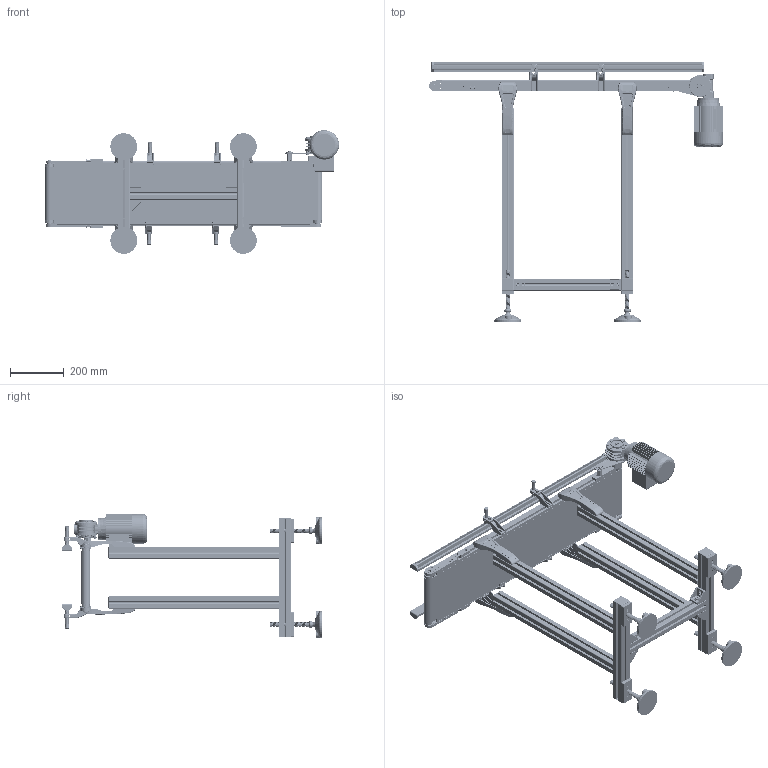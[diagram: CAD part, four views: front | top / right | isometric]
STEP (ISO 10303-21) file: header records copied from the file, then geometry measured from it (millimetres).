
FILE_DESCRIPTION (( 'STEP AP203' ), '1' );
FILE_NAME ('NASTRO_RETTILINEO_TAPPETO.step', '2026-04-22T12:04:53', ( 'Utente Windows' ), ( '' ), 'SwSTEP 2.0', 'SolidWorks 2024', '' );
FILE_SCHEMA (( 'CONFIG_CONTROL_DESIGN' ));
Length unit declared in the file: millimetre
Products named in the file (58): 084.801.027 sx; CUSCINETTI CB_CB 202; 084.405.001; 2010.000.068_L; FLANGIA_GAMBA_50; GAMBE_D50_Default<A macchina>; 084.301.000 VITI ALUSIC_084.301.002; 084.301.000 VITI ALUSIC_084.301.011; 084.712.002; BLOCCO_TRAINO_30_STANDARD_SX_MOTORE A SINISTRA; 084.711.006_PER CAVA 8 PERNO ALTO 1; 084.301.000 VITI ALUSIC1_084.301.003; VITI TE UNI 5739_M8x16 UNI 5739; 084.802.008; NASTRO_RETTILINEO_TAPPETO; BLOCCO_RINVIO_30_STANDARD_SX; BLOCCO_TRAINO_30_STANDARD_30_DX_MOTORE A SINISTRA; BLOCCO_RINVIO_30_STANDARD_DX; 084.801.027 dx; 084.802.062; 084.711.006_L2; DADI ESAGONALI NORMALI UNI 5588_M6 UNI 5588; PIEDE; 084.303.001; RULLO_30_RINVIO; RONDELLE UNI 6592_8.4x17 UNI 6592; 084.711.007; SPONDA_Default<A macchina>; 084.301.000 VITI ALUSIC_084.301.003; 2010.000.069; CH03P_DX; 084.711.005; LAMIERA_STANDARD; RONDELLE FASCIA LARGA UNI 6593_8.4x24 UNI 6593; 2010.000.070; 084.201.012; RONDELLE UNI 6592_6.4x12.5 UNI 6592; 084.801.025; 084.302.000 DADI ALUSIC 13x13-1_084.302.009; 084.802.027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
Assembly tree (142 placements, depth 4):
  NASTRO_RETTILINEO_TAPPETO
    TAPPETO_STANDARD
    TELAIO_30_STANDARD_Default<A macchina>
    LAMIERA_STANDARD
    RULLO_30_TRAINO_30_DX
    BLOCCO_TRAINO_30_STANDARD_30_DX_MOTORE A SINISTRA
      084.802.027
      084.807.005
      084.801.027 dx
      084.801.025
      CUSCINETTI CB_CB 202
      084.301.000 VITI ALUSIC_084.301.002  x2
      084.302.000 DADI ALUSIC 13x13-1_084.302.004  x2
      084.301.000 VITI ALUSIC_084.301.011  x2
      VITI TE UNI 5739_M8x16 UNI 5739
      RONDELLE FASCIA LARGA UNI 6593_8.4x24 UNI 6593
      GRANI A PUNTA PIATTA UNI 5923_M8x20 UNI 5923
      RONDELLE UNI 6592_6.4x12.5 UNI 6592  x4
      VITI TE UNI 5739_M6x10 UNI 5739  x4
      084.802.062
    BLOCCO_TRAINO_30_STANDARD_SX_MOTORE A SINISTRA
      084.801.027 sx
      62012RSBOMB_62012RSBOMB
      084.302.000 DADI ALUSIC 13x13-1_084.302.004  x2
      084.301.000 VITI ALUSIC_084.301.002  x2
    RULLO_30_RINVIO
    BLOCCO_RINVIO_30_STANDARD_SX
      084.802.008
      084.801.027 sx
      62012RSBOMB_62012RSBOMB
      084.302.000 DADI ALUSIC 13x13-1_084.302.004  x3
      084.301.000 VITI ALUSIC_084.301.002  x2
      084.301.000 VITI ALUSIC_084.301.003
    BLOCCO_RINVIO_30_STANDARD_DX
      084.802.008
      084.801.027 dx
      62012RSBOMB_62012RSBOMB
      084.302.000 DADI ALUSIC 13x13-1_084.302.004  x3
      084.301.000 VITI ALUSIC_084.301.002  x2
      084.301.000 VITI ALUSIC_084.301.003
    SPONDA_Default<A macchina>  x2
    084.711.006_PER CAVA 8 PERNO ALTO 1  x4
      084.711.006_L1
      084.711.006_L2
      084.711.007
      084.711.005
      084.711.010
      DADI ESAGONALI NORMALI UNI 5588_M6 UNI 5588
    084.712.002  x4
    GAMBE_D50_Default<A macchina>  x2
    FLANGIA_GAMBA_50
      084.302.000 DADI ALUSIC 13x13-1_084.302.004  x4
      RONDELLE UNI 6592_8.4x17 UNI 6592  x3
      084.301.000 VITI ALUSIC_084.301.003  x4
      2010.000.068
        2010.000.068_L
        2010.000.069
        2010.000.070
    FLANGIA_GAMBA_50  x3
      084.302.000 DADI ALUSIC 13x13-1_084.302.004
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Bounding box: 1097 x 972.1 x 461.44 mm (x, y, z)
Volume: 9223984.1 mm3; surface area: 5584700.3 mm2
Topology: 232 solids, 234 shells, 11652 faces, 30244 edges, 19173 vertices
Faces by surface type: plane 4448, cylinder 3986, bspline 1298, cone 930, torus 850, sphere 140
Entity records: 154537 total; most frequent: CARTESIAN_POINT 53528, ORIENTED_EDGE 20108, DIRECTION 18623, EDGE_CURVE 10054, AXIS2_PLACEMENT_3D 6629, VERTEX_POINT 6451, VECTOR 5365, LINE 5365
